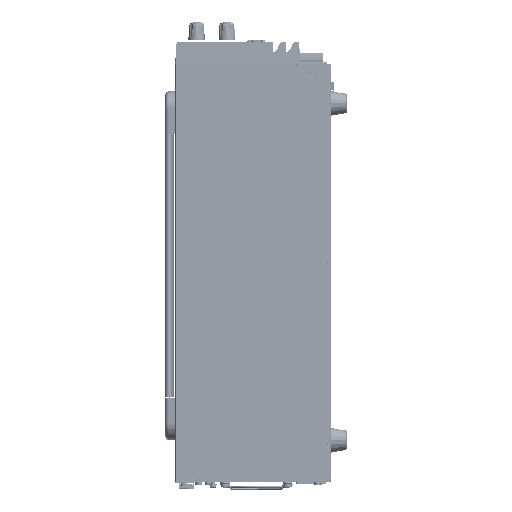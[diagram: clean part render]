
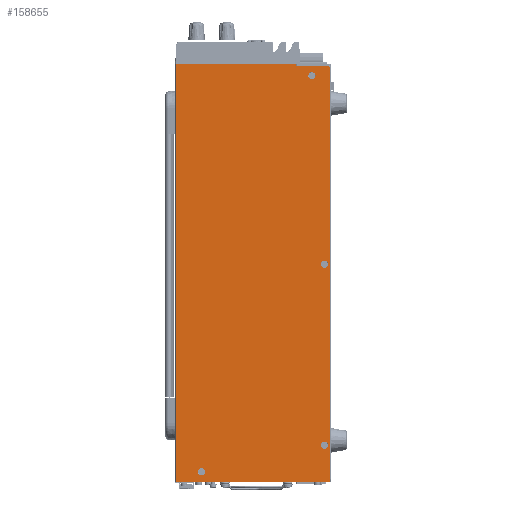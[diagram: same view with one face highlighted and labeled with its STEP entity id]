
A CAD part, left-side view. The second image highlights one B-rep face of the part: STEP entity #158655.
In plain terms, the highlighted planar face has unit normal (-1, 0, 0).
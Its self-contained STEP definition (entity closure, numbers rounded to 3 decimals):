
#156798=CARTESIAN_POINT('',(-106.2,15.2,-9.));
#156799=DIRECTION('',(-1.,0.,0.));
#156800=DIRECTION('',(0.,1.,0.));
#156801=AXIS2_PLACEMENT_3D('',#156798,#156799,#156800);
#156803=CARTESIAN_POINT('',(-106.2,15.2,-9.));
#156804=DIRECTION('',(-1.,0.,0.));
#156805=DIRECTION('',(0.,-1.,0.));
#156806=AXIS2_PLACEMENT_3D('',#156803,#156804,#156805);
#156808=CARTESIAN_POINT('',(-106.2,5.2,-159.));
#156809=DIRECTION('',(-1.,0.,0.));
#156810=DIRECTION('',(0.,1.,0.));
#156811=AXIS2_PLACEMENT_3D('',#156808,#156809,#156810);
#156813=CARTESIAN_POINT('',(-106.2,5.2,-159.));
#156814=DIRECTION('',(-1.,0.,0.));
#156815=DIRECTION('',(0.,-1.,0.));
#156816=AXIS2_PLACEMENT_3D('',#156813,#156814,#156815);
#156818=CARTESIAN_POINT('',(-106.2,5.2,-303.));
#156819=DIRECTION('',(-1.,0.,0.));
#156820=DIRECTION('',(0.,1.,0.));
#156821=AXIS2_PLACEMENT_3D('',#156818,#156819,#156820);
#156823=CARTESIAN_POINT('',(-106.2,5.2,-303.));
#156824=DIRECTION('',(-1.,0.,0.));
#156825=DIRECTION('',(0.,-1.,0.));
#156826=AXIS2_PLACEMENT_3D('',#156823,#156824,#156825);
#156828=CARTESIAN_POINT('',(-106.2,2.5,-3.3));
#156829=DIRECTION('',(-1.,0.,0.));
#156830=DIRECTION('',(0.,-1.,0.));
#156831=AXIS2_PLACEMENT_3D('',#156828,#156829,#156830);
#156833=CARTESIAN_POINT('',(-106.2,2.5,-330.5));
#156834=DIRECTION('',(-1.,0.,0.));
#156835=DIRECTION('',(0.,0.,-1.));
#156836=AXIS2_PLACEMENT_3D('',#156833,#156834,#156835);
#156838=DIRECTION('',(0.,0.,-1.));
#156839=VECTOR('',#156838,332.5);
#156840=CARTESIAN_POINT('',(-106.2,123.,0.));
#156841=LINE('',#156840,#156839);
#156842=DIRECTION('',(0.,0.,-1.));
#156843=VECTOR('',#156842,1.3);
#156844=CARTESIAN_POINT('',(-106.2,27.6,0.));
#156845=LINE('',#156844,#156843);
#156846=DIRECTION('',(0.,1.,0.));
#156847=VECTOR('',#156846,25.1);
#156848=CARTESIAN_POINT('',(-106.2,2.5,-1.3));
#156849=LINE('',#156848,#156847);
#156850=CARTESIAN_POINT('',(-106.2,103.,-324.));
#156851=DIRECTION('',(-1.,0.,0.));
#156852=DIRECTION('',(0.,1.,0.));
#156853=AXIS2_PLACEMENT_3D('',#156850,#156851,#156852);
#156855=CARTESIAN_POINT('',(-106.2,103.,-324.));
#156856=DIRECTION('',(-1.,0.,0.));
#156857=DIRECTION('',(0.,-1.,0.));
#156858=AXIS2_PLACEMENT_3D('',#156855,#156856,#156857);
#157771=DIRECTION('',(0.,-1.,0.));
#157772=VECTOR('',#157771,95.4);
#157773=CARTESIAN_POINT('',(-106.2,123.,0.));
#157774=LINE('',#157773,#157772);
#157807=DIRECTION('',(0.,0.,-1.));
#157808=VECTOR('',#157807,327.2);
#157809=CARTESIAN_POINT('',(-106.2,0.5,-3.3));
#157810=LINE('',#157809,#157808);
#157819=DIRECTION('',(0.,-1.,0.));
#157820=VECTOR('',#157819,120.5);
#157821=CARTESIAN_POINT('',(-106.2,123.,-332.5));
#157822=LINE('',#157821,#157820);
#158208=CARTESIAN_POINT('',(-106.2,123.,0.));
#158209=CARTESIAN_POINT('',(-106.2,123.,-332.5));
#158210=VERTEX_POINT('',#158208);
#158211=VERTEX_POINT('',#158209);
#158232=CARTESIAN_POINT('',(-106.2,27.6,0.));
#158233=CARTESIAN_POINT('',(-106.2,27.6,-1.3));
#158234=VERTEX_POINT('',#158232);
#158235=VERTEX_POINT('',#158233);
#158285=CARTESIAN_POINT('',(-106.2,18.093,-9.));
#158287=VERTEX_POINT('',#158285);
#158289=CARTESIAN_POINT('',(-106.2,12.307,-9.));
#158291=VERTEX_POINT('',#158289);
#158293=CARTESIAN_POINT('',(-106.2,8.093,-159.));
#158295=VERTEX_POINT('',#158293);
#158297=CARTESIAN_POINT('',(-106.2,2.307,-159.));
#158299=VERTEX_POINT('',#158297);
#158301=CARTESIAN_POINT('',(-106.2,8.093,-303.));
#158303=VERTEX_POINT('',#158301);
#158305=CARTESIAN_POINT('',(-106.2,2.307,-303.));
#158307=VERTEX_POINT('',#158305);
#158440=CARTESIAN_POINT('',(-106.2,0.5,-3.3));
#158441=CARTESIAN_POINT('',(-106.2,2.5,-1.3));
#158442=VERTEX_POINT('',#158440);
#158443=VERTEX_POINT('',#158441);
#158448=CARTESIAN_POINT('',(-106.2,2.5,-332.5));
#158449=CARTESIAN_POINT('',(-106.2,0.5,-330.5));
#158450=VERTEX_POINT('',#158448);
#158451=VERTEX_POINT('',#158449);
#158481=CARTESIAN_POINT('',(-106.2,105.893,-324.));
#158483=VERTEX_POINT('',#158481);
#158485=CARTESIAN_POINT('',(-106.2,100.107,-324.));
#158487=VERTEX_POINT('',#158485);
#158608=CARTESIAN_POINT('',(-106.2,123.8,0.));
#158609=DIRECTION('',(-1.,0.,0.));
#158610=DIRECTION('',(0.,-1.,0.));
#158611=AXIS2_PLACEMENT_3D('',#158608,#158609,#158610);
#158612=PLANE('',#158611);
#158614=ORIENTED_EDGE('',*,*,#158613,.F.);
#158616=ORIENTED_EDGE('',*,*,#158615,.T.);
#158618=ORIENTED_EDGE('',*,*,#158617,.F.);
#158620=ORIENTED_EDGE('',*,*,#158619,.F.);
#158622=ORIENTED_EDGE('',*,*,#158621,.F.);
#158624=ORIENTED_EDGE('',*,*,#158623,.T.);
#158626=ORIENTED_EDGE('',*,*,#158625,.T.);
#158628=ORIENTED_EDGE('',*,*,#158627,.F.);
#158629=EDGE_LOOP('',(#158614,#158616,#158618,#158620,#158622,#158624,#158626,
#158628));
#158630=FACE_OUTER_BOUND('',#158629,.F.);
#158632=ORIENTED_EDGE('',*,*,#158631,.T.);
#158634=ORIENTED_EDGE('',*,*,#158633,.T.);
#158635=EDGE_LOOP('',(#158632,#158634));
#158636=FACE_BOUND('',#158635,.F.);
#158638=ORIENTED_EDGE('',*,*,#158637,.T.);
#158640=ORIENTED_EDGE('',*,*,#158639,.T.);
#158641=EDGE_LOOP('',(#158638,#158640));
#158642=FACE_BOUND('',#158641,.F.);
#158644=ORIENTED_EDGE('',*,*,#158643,.T.);
#158646=ORIENTED_EDGE('',*,*,#158645,.T.);
#158647=EDGE_LOOP('',(#158644,#158646));
#158648=FACE_BOUND('',#158647,.F.);
#158650=ORIENTED_EDGE('',*,*,#158649,.T.);
#158652=ORIENTED_EDGE('',*,*,#158651,.T.);
#158653=EDGE_LOOP('',(#158650,#158652));
#158654=FACE_BOUND('',#158653,.F.);
#158655=ADVANCED_FACE('',(#158630,#158636,#158642,#158648,#158654),#158612,.T.);
#156802=CIRCLE('',#156801,2.893);
#156807=CIRCLE('',#156806,2.893);
#156812=CIRCLE('',#156811,2.893);
#156817=CIRCLE('',#156816,2.893);
#156822=CIRCLE('',#156821,2.893);
#156827=CIRCLE('',#156826,2.893);
#156832=CIRCLE('',#156831,2.);
#156837=CIRCLE('',#156836,2.);
#156854=CIRCLE('',#156853,2.893);
#156859=CIRCLE('',#156858,2.893);
#158613=EDGE_CURVE('',#158442,#158443,#156832,.T.);
#158615=EDGE_CURVE('',#158442,#158451,#157810,.T.);
#158617=EDGE_CURVE('',#158450,#158451,#156837,.T.);
#158619=EDGE_CURVE('',#158211,#158450,#157822,.T.);
#158621=EDGE_CURVE('',#158210,#158211,#156841,.T.);
#158623=EDGE_CURVE('',#158210,#158234,#157774,.T.);
#158625=EDGE_CURVE('',#158234,#158235,#156845,.T.);
#158627=EDGE_CURVE('',#158443,#158235,#156849,.T.);
#158631=EDGE_CURVE('',#158295,#158299,#156812,.T.);
#158633=EDGE_CURVE('',#158299,#158295,#156817,.T.);
#158637=EDGE_CURVE('',#158303,#158307,#156822,.T.);
#158639=EDGE_CURVE('',#158307,#158303,#156827,.T.);
#158643=EDGE_CURVE('',#158287,#158291,#156802,.T.);
#158645=EDGE_CURVE('',#158291,#158287,#156807,.T.);
#158649=EDGE_CURVE('',#158483,#158487,#156854,.T.);
#158651=EDGE_CURVE('',#158487,#158483,#156859,.T.);
